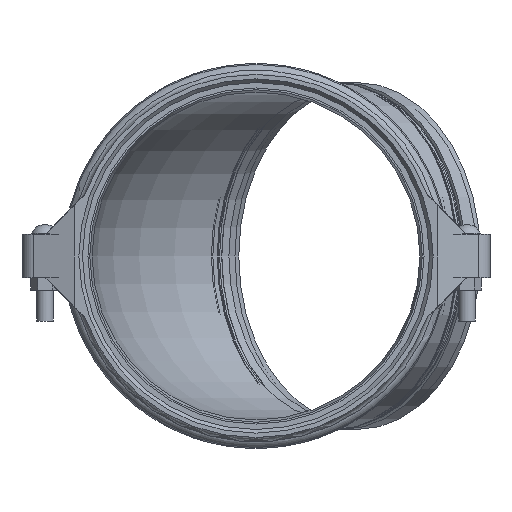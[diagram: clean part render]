
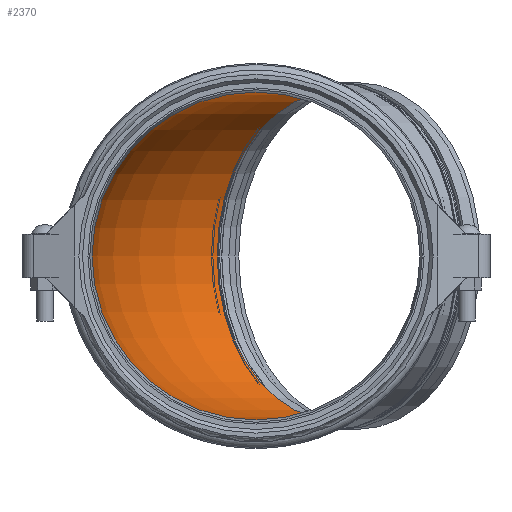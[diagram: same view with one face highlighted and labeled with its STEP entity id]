
A CAD part, left-side view. The second image highlights one B-rep face of the part: STEP entity #2370.
In plain terms, the highlighted toroidal (fillet/blend) face has major radius 468.493 mm and minor radius 288.036 mm.
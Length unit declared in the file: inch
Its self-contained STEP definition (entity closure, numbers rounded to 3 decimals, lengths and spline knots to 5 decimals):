
#76=TOROIDAL_SURFACE('',#2712,18.44459,11.34);
#528=FACE_OUTER_BOUND('',#665,.T.);
#665=EDGE_LOOP('',(#1967,#1968,#1969,#1970,#1971));
#807=CIRCLE('',#2713,11.34);
#808=CIRCLE('',#2714,7.10459);
#809=CIRCLE('',#2715,11.34);
#810=CIRCLE('',#2716,11.34);
#1050=VERTEX_POINT('',#4478);
#1051=VERTEX_POINT('',#4480);
#1052=VERTEX_POINT('',#4482);
#1366=EDGE_CURVE('',#1050,#1050,#807,.T.);
#1367=EDGE_CURVE('',#1050,#1051,#808,.T.);
#1368=EDGE_CURVE('',#1051,#1052,#809,.T.);
#1369=EDGE_CURVE('',#1052,#1051,#810,.T.);
#1967=ORIENTED_EDGE('',*,*,#1366,.F.);
#1968=ORIENTED_EDGE('',*,*,#1367,.T.);
#1969=ORIENTED_EDGE('',*,*,#1368,.T.);
#1970=ORIENTED_EDGE('',*,*,#1369,.T.);
#1971=ORIENTED_EDGE('',*,*,#1367,.F.);
#2370=ADVANCED_FACE('',(#528),#76,.F.);
#2712=AXIS2_PLACEMENT_3D('',#4477,#3365,#3366);
#2713=AXIS2_PLACEMENT_3D('',#4479,#3367,#3368);
#2714=AXIS2_PLACEMENT_3D('',#4481,#3369,#3370);
#2715=AXIS2_PLACEMENT_3D('',#4483,#3371,#3372);
#2716=AXIS2_PLACEMENT_3D('',#4484,#3373,#3374);
#3365=DIRECTION('center_axis',(0.,0.,-1.));
#3366=DIRECTION('ref_axis',(-1.,0.,0.));
#3367=DIRECTION('center_axis',(0.,1.,0.));
#3368=DIRECTION('ref_axis',(-1.,0.,0.));
#3369=DIRECTION('center_axis',(0.,0.,-1.));
#3370=DIRECTION('ref_axis',(-1.,0.,0.));
#3371=DIRECTION('center_axis',(0.707,0.707,0.));
#3372=DIRECTION('ref_axis',(-0.707,0.707,0.));
#3373=DIRECTION('center_axis',(0.707,0.707,0.));
#3374=DIRECTION('ref_axis',(-0.707,0.707,0.));
#4477=CARTESIAN_POINT('Origin',(18.44459,-7.64,0.));
#4478=CARTESIAN_POINT('',(11.34,-7.64,0.));
#4479=CARTESIAN_POINT('Origin',(0.,-7.64,0.));
#4480=CARTESIAN_POINT('',(13.42089,-2.6163,0.));
#4481=CARTESIAN_POINT('Origin',(18.44459,-7.64,0.));
#4482=CARTESIAN_POINT('',(5.4023,5.4023,11.34));
#4483=CARTESIAN_POINT('Origin',(5.4023,5.4023,0.));
#4484=CARTESIAN_POINT('Origin',(5.4023,5.4023,0.));
